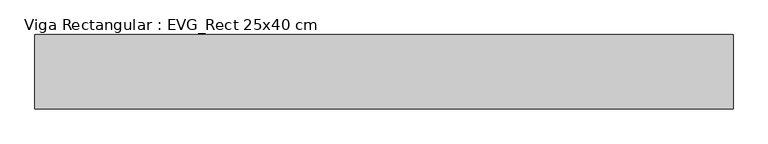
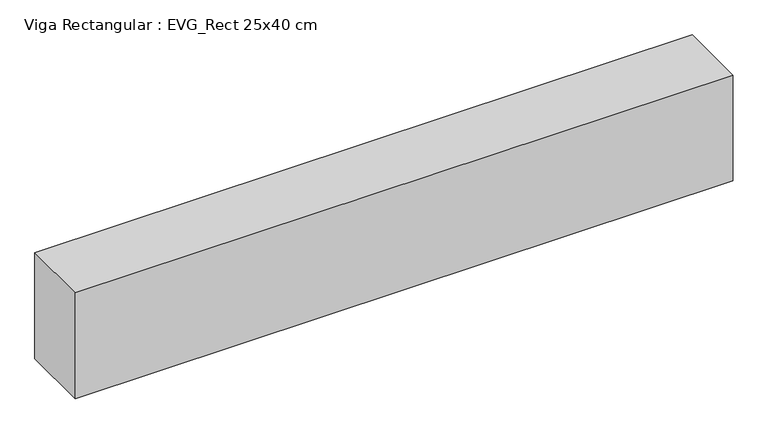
"""IFC4 building model written with IfcOpenShell, lengths in millimetres: beam geometry, Viga Rectangular : EVG_Rect 25x40 cm."""

from ifc_helpers import new_model, si_unit, frame, origin, place, context, project, spatial, polyline, outline, extrude, source, transform, mapped, element, save


def viga_rectangular_evg_rect_25x40_cm_a2aa706d(model_context):
    return source(origin(), model_context, "Body", "SweptSolid", [
        extrude(outline(polyline([(1275.0, 125.0), (1275.0, -125.0), (-1075.0, -125.0), (-1075.0, 125.0), (1275.0, 125.0)])), frame((0.0, 0.0, -400.0), z_axis=(0.0, 0.0, 1.0), x_axis=(1.0, 0.0, 0.0)), (0.0, 0.0, 1.0), 400.0),
    ])


if __name__ == "__main__":
    model = new_model("IFC4")
    model_context = context("Model", 3, world=origin())
    ifc_project = project(units=[si_unit("LENGTHUNIT", "METRE", prefix="MILLI")], contexts=[model_context])
    site = spatial("IfcSite", under=ifc_project)
    building = spatial("IfcBuilding", under=site)
    placement = place(None, origin())
    viga_rectangular_evg_rect_25x40_cm_shape = viga_rectangular_evg_rect_25x40_cm_a2aa706d(model_context)
    element("IfcBeam", 1, ObjectType="Viga Rectangular : EVG_Rect 25x40 cm", at=placement, inside=building, context=model_context, shape_type="MappedRepresentation", body=[
        mapped(viga_rectangular_evg_rect_25x40_cm_shape, transform((0.0, 0.0, 0.0), x_axis=(1.0, 0.0, 0.0), y_axis=(0.0, 1.0, 0.0), z_axis=(0.0, 0.0, 1.0))),
    ])
    save(model, "model.ifc")
